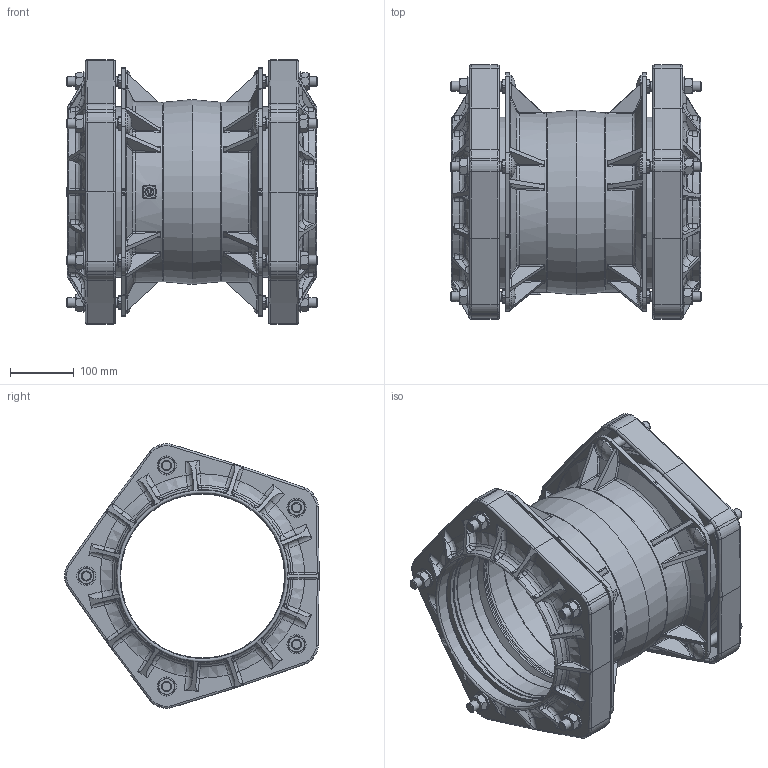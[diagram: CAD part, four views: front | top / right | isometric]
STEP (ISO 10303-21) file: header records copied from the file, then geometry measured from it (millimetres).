
FILE_DESCRIPTION((''),'2;1');
FILE_NAME('P:\Fastrack\54361_VIKING JOHNSON 3D\ULTRAGRIP\Component Parts\Components Built up\Coupling Assembly\200MM-UltraGrip-Coupling-Assembly.stp','2012-05-01T16:58:05',('dcole'),(''),'Autodesk Inventor 2008','Autodesk Inventor 2008','');
FILE_SCHEMA(('AUTOMOTIVE_DESIGN { 1 0 10303 214 1 1 1 1 }'));
Length unit declared in the file: millimetre
Products named in the file (1): 200MM-UltraGrip-Coupling-Assembly
Bounding box: 393 x 398.7 x 414.55 mm (x, y, z)
Volume: 4898575.1 mm3; surface area: 1446191 mm2
Topology: 1 solids, 1 shells, 2210 faces, 5757 edges, 3600 vertices
Faces by surface type: plane 726, bspline 659, cylinder 493, cone 237, torus 95
Full cylindrical faces by diameter (mm): 13 x1, 15.7 x20, 16 x10, 30 x10, 35.2 x10, 257 x2, 259 x8, 268 x2
Entity records: 111322 total; most frequent: CARTESIAN_POINT 59260, ORIENTED_EDGE 11108, DIRECTION 9254, EDGE_CURVE 5554, AXIS2_PLACEMENT_3D 3593, VERTEX_POINT 3544, EDGE_LOOP 2432, STYLED_ITEM 2207
